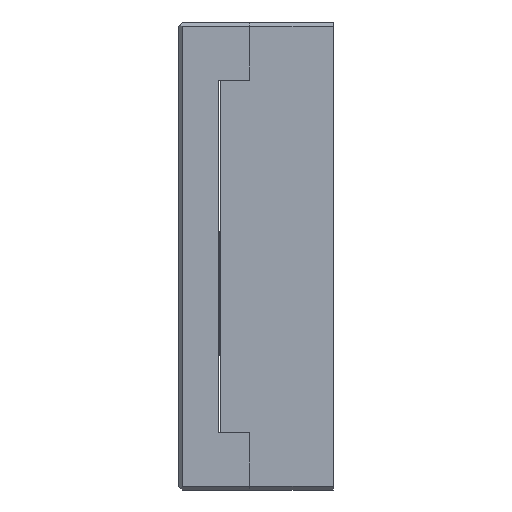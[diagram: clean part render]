
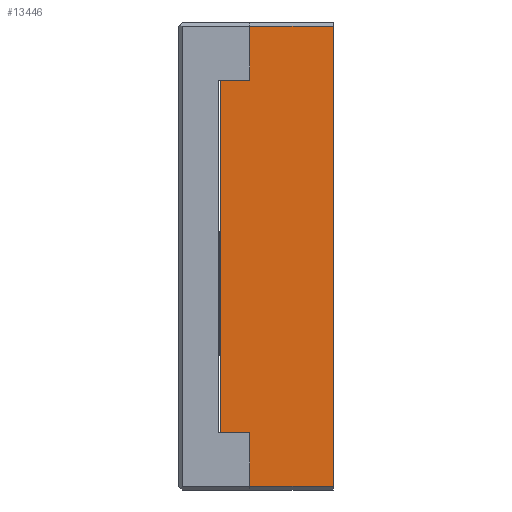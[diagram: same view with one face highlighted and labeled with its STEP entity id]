
A CAD part, left-side view. The second image highlights one B-rep face of the part: STEP entity #13446.
In plain terms, the highlighted planar face has unit normal (-1, 0, 0).
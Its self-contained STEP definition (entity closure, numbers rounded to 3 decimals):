
#290=DIRECTION('',(0.,0.,1.));
#291=VECTOR('',#290,128.);
#292=CARTESIAN_POINT('',(-65.,0.,-64.));
#293=LINE('903',#292,#291);
#474=DIRECTION('',(0.,1.,0.));
#475=VECTOR('',#474,8.);
#476=CARTESIAN_POINT('',(-65.,23.25,-49.));
#477=LINE('1004',#476,#475);
#481=DIRECTION('',(0.,0.,1.));
#482=VECTOR('',#481,98.);
#483=CARTESIAN_POINT('',(-65.,31.25,-49.));
#484=LINE('1005',#483,#482);
#488=DIRECTION('',(0.,-1.,0.));
#489=VECTOR('',#488,8.);
#490=CARTESIAN_POINT('',(-65.,31.25,49.));
#491=LINE('1003',#490,#489);
#495=DIRECTION('',(0.,1.,0.));
#496=VECTOR('',#495,23.25);
#497=CARTESIAN_POINT('',(-65.,0.,-64.));
#498=LINE('978',#497,#496);
#509=DIRECTION('',(0.,0.,-1.));
#510=VECTOR('',#509,15.);
#511=CARTESIAN_POINT('',(-65.,23.25,-49.));
#512=LINE('1000',#511,#510);
#726=DIRECTION('',(0.,0.,-1.));
#727=VECTOR('',#726,15.);
#728=CARTESIAN_POINT('',(-65.,23.25,64.));
#729=LINE('998',#728,#727);
#814=DIRECTION('',(0.,1.,0.));
#815=VECTOR('',#814,23.25);
#816=CARTESIAN_POINT('',(-65.,0.,64.));
#817=LINE('985',#816,#815);
#11744=CARTESIAN_POINT('',(-65.,0.,64.));
#11746=VERTEX_POINT('',#11744);
#11751=CARTESIAN_POINT('',(-65.,0.,-64.));
#11753=VERTEX_POINT('',#11751);
#11833=CARTESIAN_POINT('',(-65.,23.25,-64.));
#11834=VERTEX_POINT('',#11833);
#11849=CARTESIAN_POINT('',(-65.,23.25,64.));
#11850=VERTEX_POINT('',#11849);
#11860=CARTESIAN_POINT('',(-65.,31.25,49.));
#11862=VERTEX_POINT('',#11860);
#11864=CARTESIAN_POINT('',(-65.,31.25,-49.));
#11866=VERTEX_POINT('',#11864);
#11867=CARTESIAN_POINT('',(-65.,23.25,49.));
#11869=VERTEX_POINT('',#11867);
#11871=CARTESIAN_POINT('',(-65.,23.25,-49.));
#11873=VERTEX_POINT('',#11871);
#13424=CARTESIAN_POINT('',(-65.,0.,-65.));
#13425=DIRECTION('',(-1.,0.,0.));
#13426=DIRECTION('',(0.,0.,1.));
#13427=AXIS2_PLACEMENT_3D('',#13424,#13425,#13426);
#13428=PLANE('166',#13427);
#13430=ORIENTED_EDGE('1000',*,*,#13429,.F.);
#13432=ORIENTED_EDGE('1004',*,*,#13431,.T.);
#13434=ORIENTED_EDGE('1005',*,*,#13433,.T.);
#13436=ORIENTED_EDGE('1003',*,*,#13435,.T.);
#13438=ORIENTED_EDGE('998',*,*,#13437,.F.);
#13440=ORIENTED_EDGE('985',*,*,#13439,.F.);
#13441=ORIENTED_EDGE('903',*,*,#13332,.F.);
#13443=ORIENTED_EDGE('978',*,*,#13442,.T.);
#13444=EDGE_LOOP('166',(#13430,#13432,#13434,#13436,#13438,#13440,#13441,
#13443));
#13445=FACE_OUTER_BOUND('166',#13444,.F.);
#13332=EDGE_CURVE('903',#11753,#11746,#293,.T.);
#13429=EDGE_CURVE('1000',#11873,#11834,#512,.T.);
#13431=EDGE_CURVE('1004',#11873,#11866,#477,.T.);
#13433=EDGE_CURVE('1005',#11866,#11862,#484,.T.);
#13435=EDGE_CURVE('1003',#11862,#11869,#491,.T.);
#13437=EDGE_CURVE('998',#11850,#11869,#729,.T.);
#13439=EDGE_CURVE('985',#11746,#11850,#817,.T.);
#13442=EDGE_CURVE('978',#11753,#11834,#498,.T.);
#13446=ADVANCED_FACE('166',(#13445),#13428,.T.);
